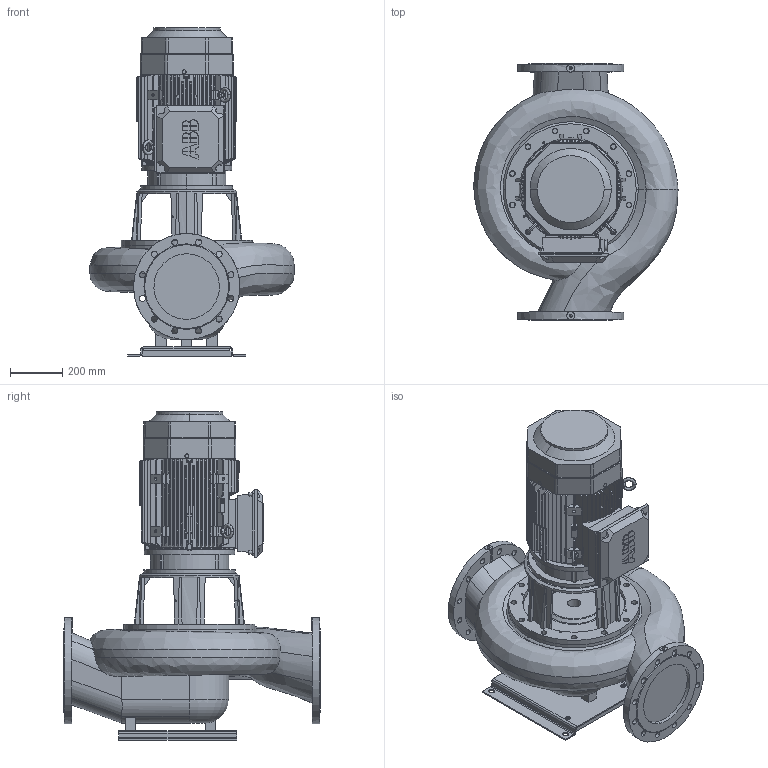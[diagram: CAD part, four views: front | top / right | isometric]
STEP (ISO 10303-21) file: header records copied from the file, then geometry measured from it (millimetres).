
FILE_DESCRIPTION(('STEP AP214'),'1');
FILE_NAME('export.stp','2018-05-30T06:28:50',(' '),(' '),'Spatial InterOp 3D',' ',' ');
FILE_SCHEMA(('AUTOMOTIVE_DESIGN { 1 0 10303 214 1 1 1 1 }'));
Length unit declared in the file: millimetre
Products named in the file (19): W_AL12516SD150; V_TLL125SAL1250; V_PPAL1250; P100464; P100462; P101191; P100935; IEC-180; 3GZV311000-999999-324000-324001_; 3GZV183002-193006-183002-183999_; -simplified-simplified_parts_Sta; -simplified-simplified_parts_M31; -simplified-simplified_parts_Fan; -simplified-simplified_parts_Ter; 3GZV244000-310999-294000-299999_; Implementation-STANDARD_PARTS_Li
Assembly tree (20 placements, depth 3):
  W_AL12516SD150
    V_TLL125SAL1250
    V_PPAL1250
    P100464
      P100462
      P101191  x2
    P100935
    IEC-180
      3GZV311000-999999-324000-324001_
      3GZV183002-193006-183002-183999_
      -simplified-simplified_parts_Sta
      -simplified-simplified_parts_M31
      -simplified-simplified_parts_Fan
      -simplified-simplified_parts_Ter
      -simplified-simplified_parts_Ter
      3GZV244000-310999-294000-299999_
      3GZV244000-310999-294000-299999_
      3GZV244000-310999-294000-299999_
      Implementation-STANDARD_PARTS_Li  x2
Bounding box: 779.16 x 980 x 1251.71 mm (x, y, z)
Volume: 174901519.8 mm3; surface area: 6988777.3 mm2
Topology: 13 solids, 143 shells, 1732 faces, 4926 edges, 3345 vertices
Faces by surface type: bspline 1286, cylinder 251, plane 144, cone 46, torus 5
Entity records: 90575 total; most frequent: CARTESIAN_POINT 29136, ORIENTED_EDGE 8897, STYLED_ITEM 5019, PRESENTATION_STYLE_ASSIGNMENT 5019, COLOUR_RGB 5019, EDGE_CURVE 4694, CURVE_STYLE 3338, DRAUGHTING_PRE_DEFINED_CURVE_FONT 3338
